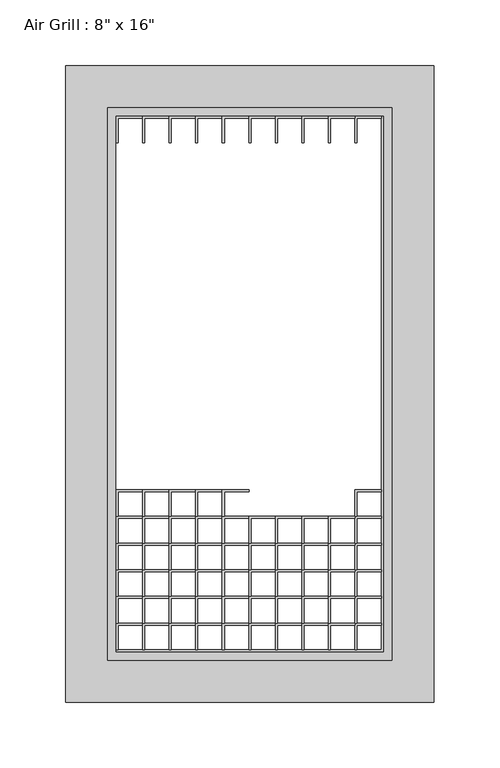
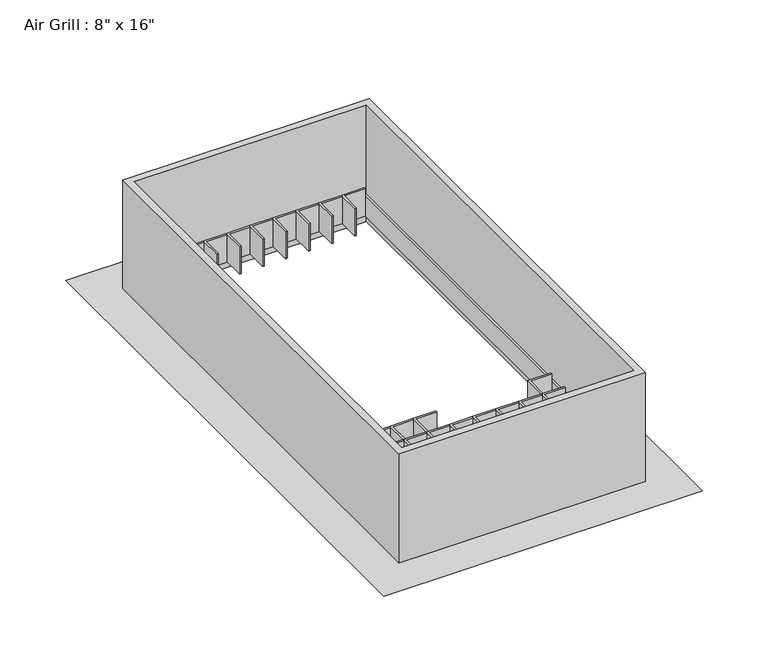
"""IFC4 building model written with IfcOpenShell, lengths in millimetres: proxy geometry."""

from ifc_helpers import new_model, si_unit, frame, origin, place, context, project, spatial, polyline, outline, extrude, faceted_brep, source, transform, mapped, element, save


def proxy_c49d08ba(model_context):
    return source(origin(), model_context, "Body", "SolidModel", [
        extrude(outline(polyline([(-20.955, -80.16875), (-0.79375, -80.16875), (-0.79375, -81.75625), (-19.3675, -81.75625), (-19.3675, -100.409375), (-20.955, -100.409375), (-20.955, -80.16875)])), frame((0.0, 0.0, 2438.4), z_axis=(0.0, 0.0, 1.0), x_axis=(1.0, 0.0, 0.0)), (0.0, 0.0, 1.0), 25.4),
        extrude(outline(polyline([(-41.11625, -80.16875), (-20.955, -80.16875), (-20.955, -81.75625), (-39.52875, -81.75625), (-39.52875, -100.409375), (-41.11625, -100.409375), (-41.11625, -80.16875)])), frame((0.0, 0.0, 2438.4), z_axis=(0.0, 0.0, 1.0), x_axis=(1.0, 0.0, 0.0)), (0.0, 0.0, 1.0), 25.4),
        extrude(outline(polyline([(-61.2775, -80.16875), (-41.11625, -80.16875), (-41.11625, -81.75625), (-59.69, -81.75625), (-59.69, -100.409375), (-61.2775, -100.409375), (-61.2775, -80.16875)])), frame((0.0, 0.0, 2438.4), z_axis=(0.0, 0.0, 1.0), x_axis=(1.0, 0.0, 0.0)), (0.0, 0.0, 1.0), 25.4),
        extrude(outline(polyline([(-81.43875, -80.16875), (-61.2775, -80.16875), (-61.2775, -81.75625), (-79.85125, -81.75625), (-79.85125, -100.409375), (-81.43875, -100.409375), (-81.43875, -80.16875)])), frame((0.0, 0.0, 2438.4), z_axis=(0.0, 0.0, 1.0), x_axis=(1.0, 0.0, 0.0)), (0.0, 0.0, 1.0), 25.4),
        extrude(outline(polyline([(79.85125, -80.16875), (100.0125, -80.16875), (100.0125, -81.75625), (81.43875, -81.75625), (81.43875, -100.409375), (79.85125, -100.409375), (79.85125, -80.16875)])), frame((0.0, 0.0, 2438.4), z_axis=(0.0, 0.0, 1.0), x_axis=(1.0, 0.0, 0.0)), (0.0, 0.0, 1.0), 25.4),
        extrude(outline(polyline([(-101.6, -80.16875), (-81.43875, -80.16875), (-81.43875, -81.75625), (-100.0125, -81.75625), (-100.0125, -100.409375), (-101.6, -100.409375), (-101.6, -80.16875)])), frame((0.0, 0.0, 2438.4), z_axis=(0.0, 0.0, 1.0), x_axis=(1.0, 0.0, 0.0)), (0.0, 0.0, 1.0), 25.4),
        extrude(outline(polyline([(59.69, -100.409375), (79.85125, -100.409375), (79.85125, -101.996875), (61.2775, -101.996875), (61.2775, -120.65), (59.69, -120.65), (59.69, -100.409375)])), frame((0.0, 0.0, 2438.4), z_axis=(0.0, 0.0, 1.0), x_axis=(1.0, 0.0, 0.0)), (0.0, 0.0, 1.0), 25.4),
        extrude(outline(polyline([(39.52875, -100.409375), (59.69, -100.409375), (59.69, -101.996875), (41.11625, -101.996875), (41.11625, -120.65), (39.52875, -120.65), (39.52875, -100.409375)])), frame((0.0, 0.0, 2438.4), z_axis=(0.0, 0.0, 1.0), x_axis=(1.0, 0.0, 0.0)), (0.0, 0.0, 1.0), 25.4),
        extrude(outline(polyline([(19.3675, -100.409375), (39.52875, -100.409375), (39.52875, -101.996875), (20.955, -101.996875), (20.955, -120.65), (19.3675, -120.65), (19.3675, -100.409375)])), frame((0.0, 0.0, 2438.4), z_axis=(0.0, 0.0, 1.0), x_axis=(1.0, 0.0, 0.0)), (0.0, 0.0, 1.0), 25.4),
        extrude(outline(polyline([(-0.79375, -100.409375), (19.3675, -100.409375), (19.3675, -101.996875), (0.79375, -101.996875), (0.79375, -120.65), (-0.79375, -120.65), (-0.79375, -100.409375)])), frame((0.0, 0.0, 2438.4), z_axis=(0.0, 0.0, 1.0), x_axis=(1.0, 0.0, 0.0)), (0.0, 0.0, 1.0), 25.4),
        extrude(outline(polyline([(-20.955, -100.409375), (-0.79375, -100.409375), (-0.79375, -101.996875), (-19.3675, -101.996875), (-19.3675, -120.65), (-20.955, -120.65), (-20.955, -100.409375)])), frame((0.0, 0.0, 2438.4), z_axis=(0.0, 0.0, 1.0), x_axis=(1.0, 0.0, 0.0)), (0.0, 0.0, 1.0), 25.4),
        extrude(outline(polyline([(-41.11625, -100.409375), (-20.955, -100.409375), (-20.955, -101.996875), (-39.52875, -101.996875), (-39.52875, -120.65), (-41.11625, -120.65), (-41.11625, -100.409375)])), frame((0.0, 0.0, 2438.4), z_axis=(0.0, 0.0, 1.0), x_axis=(1.0, 0.0, 0.0)), (0.0, 0.0, 1.0), 25.4),
        extrude(outline(polyline([(-61.2775, -100.409375), (-41.11625, -100.409375), (-41.11625, -101.996875), (-59.69, -101.996875), (-59.69, -120.65), (-61.2775, -120.65), (-61.2775, -100.409375)])), frame((0.0, 0.0, 2438.4), z_axis=(0.0, 0.0, 1.0), x_axis=(1.0, 0.0, 0.0)), (0.0, 0.0, 1.0), 25.4),
        extrude(outline(polyline([(-81.43875, -100.409375), (-61.2775, -100.409375), (-61.2775, -101.996875), (-79.85125, -101.996875), (-79.85125, -120.65), (-81.43875, -120.65), (-81.43875, -100.409375)])), frame((0.0, 0.0, 2438.4), z_axis=(0.0, 0.0, 1.0), x_axis=(1.0, 0.0, 0.0)), (0.0, 0.0, 1.0), 25.4),
        extrude(outline(polyline([(79.85125, -100.409375), (100.0125, -100.409375), (100.0125, -101.996875), (81.43875, -101.996875), (81.43875, -120.65), (79.85125, -120.65), (79.85125, -100.409375)])), frame((0.0, 0.0, 2438.4), z_axis=(0.0, 0.0, 1.0), x_axis=(1.0, 0.0, 0.0)), (0.0, 0.0, 1.0), 25.4),
        extrude(outline(polyline([(-101.6, -100.409375), (-81.43875, -100.409375), (-81.43875, -101.996875), (-100.0125, -101.996875), (-100.0125, -120.65), (-101.6, -120.65), (-101.6, -100.409375)])), frame((0.0, 0.0, 2438.4), z_axis=(0.0, 0.0, 1.0), x_axis=(1.0, 0.0, 0.0)), (0.0, 0.0, 1.0), 25.4),
        extrude(outline(polyline([(59.69, -120.65), (79.85125, -120.65), (79.85125, -122.2375), (61.2775, -122.2375), (61.2775, -140.890625), (59.69, -140.890625), (59.69, -120.65)])), frame((0.0, 0.0, 2438.4), z_axis=(0.0, 0.0, 1.0), x_axis=(1.0, 0.0, 0.0)), (0.0, 0.0, 1.0), 25.4),
        extrude(outline(polyline([(39.52875, -120.65), (59.69, -120.65), (59.69, -122.2375), (41.11625, -122.2375), (41.11625, -140.890625), (39.52875, -140.890625), (39.52875, -120.65)])), frame((0.0, 0.0, 2438.4), z_axis=(0.0, 0.0, 1.0), x_axis=(1.0, 0.0, 0.0)), (0.0, 0.0, 1.0), 25.4),
        extrude(outline(polyline([(19.3675, -120.65), (39.52875, -120.65), (39.52875, -122.2375), (20.955, -122.2375), (20.955, -140.890625), (19.3675, -140.890625), (19.3675, -120.65)])), frame((0.0, 0.0, 2438.4), z_axis=(0.0, 0.0, 1.0), x_axis=(1.0, 0.0, 0.0)), (0.0, 0.0, 1.0), 25.4),
        extrude(outline(polyline([(-0.79375, -120.65), (19.3675, -120.65), (19.3675, -122.2375), (0.79375, -122.2375), (0.79375, -140.890625), (-0.79375, -140.890625), (-0.79375, -120.65)])), frame((0.0, 0.0, 2438.4), z_axis=(0.0, 0.0, 1.0), x_axis=(1.0, 0.0, 0.0)), (0.0, 0.0, 1.0), 25.4),
        extrude(outline(polyline([(-20.955, -120.65), (-0.79375, -120.65), (-0.79375, -122.2375), (-19.3675, -122.2375), (-19.3675, -140.890625), (-20.955, -140.890625), (-20.955, -120.65)])), frame((0.0, 0.0, 2438.4), z_axis=(0.0, 0.0, 1.0), x_axis=(1.0, 0.0, 0.0)), (0.0, 0.0, 1.0), 25.4),
        extrude(outline(polyline([(-41.11625, -120.65), (-20.955, -120.65), (-20.955, -122.2375), (-39.52875, -122.2375), (-39.52875, -140.890625), (-41.11625, -140.890625), (-41.11625, -120.65)])), frame((0.0, 0.0, 2438.4), z_axis=(0.0, 0.0, 1.0), x_axis=(1.0, 0.0, 0.0)), (0.0, 0.0, 1.0), 25.4),
        extrude(outline(polyline([(-61.2775, -120.65), (-41.11625, -120.65), (-41.11625, -122.2375), (-59.69, -122.2375), (-59.69, -140.890625), (-61.2775, -140.890625), (-61.2775, -120.65)])), frame((0.0, 0.0, 2438.4), z_axis=(0.0, 0.0, 1.0), x_axis=(1.0, 0.0, 0.0)), (0.0, 0.0, 1.0), 25.4),
        extrude(outline(polyline([(-81.43875, -120.65), (-61.2775, -120.65), (-61.2775, -122.2375), (-79.85125, -122.2375), (-79.85125, -140.890625), (-81.43875, -140.890625), (-81.43875, -120.65)])), frame((0.0, 0.0, 2438.4), z_axis=(0.0, 0.0, 1.0), x_axis=(1.0, 0.0, 0.0)), (0.0, 0.0, 1.0), 25.4),
        extrude(outline(polyline([(79.85125, -120.65), (100.0125, -120.65), (100.0125, -122.2375), (81.43875, -122.2375), (81.43875, -140.890625), (79.85125, -140.890625), (79.85125, -120.65)])), frame((0.0, 0.0, 2438.4), z_axis=(0.0, 0.0, 1.0), x_axis=(1.0, 0.0, 0.0)), (0.0, 0.0, 1.0), 25.4),
        extrude(outline(polyline([(-101.6, -120.65), (-81.43875, -120.65), (-81.43875, -122.2375), (-100.0125, -122.2375), (-100.0125, -140.890625), (-101.6, -140.890625), (-101.6, -120.65)])), frame((0.0, 0.0, 2438.4), z_axis=(0.0, 0.0, 1.0), x_axis=(1.0, 0.0, 0.0)), (0.0, 0.0, 1.0), 25.4),
        extrude(outline(polyline([(59.69, -140.890625), (79.85125, -140.890625), (79.85125, -142.478125), (61.2775, -142.478125), (61.2775, -161.13125), (59.69, -161.13125), (59.69, -140.890625)])), frame((0.0, 0.0, 2438.4), z_axis=(0.0, 0.0, 1.0), x_axis=(1.0, 0.0, 0.0)), (0.0, 0.0, 1.0), 25.4),
        extrude(outline(polyline([(39.52875, -140.890625), (59.69, -140.890625), (59.69, -142.478125), (41.11625, -142.478125), (41.11625, -161.13125), (39.52875, -161.13125), (39.52875, -140.890625)])), frame((0.0, 0.0, 2438.4), z_axis=(0.0, 0.0, 1.0), x_axis=(1.0, 0.0, 0.0)), (0.0, 0.0, 1.0), 25.4),
        extrude(outline(polyline([(19.3675, -140.890625), (39.52875, -140.890625), (39.52875, -142.478125), (20.955, -142.478125), (20.955, -161.13125), (19.3675, -161.13125), (19.3675, -140.890625)])), frame((0.0, 0.0, 2438.4), z_axis=(0.0, 0.0, 1.0), x_axis=(1.0, 0.0, 0.0)), (0.0, 0.0, 1.0), 25.4),
        extrude(outline(polyline([(-0.79375, -140.890625), (19.3675, -140.890625), (19.3675, -142.478125), (0.79375, -142.478125), (0.79375, -161.13125), (-0.79375, -161.13125), (-0.79375, -140.890625)])), frame((0.0, 0.0, 2438.4), z_axis=(0.0, 0.0, 1.0), x_axis=(1.0, 0.0, 0.0)), (0.0, 0.0, 1.0), 25.4),
        extrude(outline(polyline([(-20.955, -140.890625), (-0.79375, -140.890625), (-0.79375, -142.478125), (-19.3675, -142.478125), (-19.3675, -161.13125), (-20.955, -161.13125), (-20.955, -140.890625)])), frame((0.0, 0.0, 2438.4), z_axis=(0.0, 0.0, 1.0), x_axis=(1.0, 0.0, 0.0)), (0.0, 0.0, 1.0), 25.4),
        extrude(outline(polyline([(-41.11625, -140.890625), (-20.955, -140.890625), (-20.955, -142.478125), (-39.52875, -142.478125), (-39.52875, -161.13125), (-41.11625, -161.13125), (-41.11625, -140.890625)])), frame((0.0, 0.0, 2438.4), z_axis=(0.0, 0.0, 1.0), x_axis=(1.0, 0.0, 0.0)), (0.0, 0.0, 1.0), 25.4),
        extrude(outline(polyline([(-61.2775, -140.890625), (-41.11625, -140.890625), (-41.11625, -142.478125), (-59.69, -142.478125), (-59.69, -161.13125), (-61.2775, -161.13125), (-61.2775, -140.890625)])), frame((0.0, 0.0, 2438.4), z_axis=(0.0, 0.0, 1.0), x_axis=(1.0, 0.0, 0.0)), (0.0, 0.0, 1.0), 25.4),
        extrude(outline(polyline([(-81.43875, -140.890625), (-61.2775, -140.890625), (-61.2775, -142.478125), (-79.85125, -142.478125), (-79.85125, -161.13125), (-81.43875, -161.13125), (-81.43875, -140.890625)])), frame((0.0, 0.0, 2438.4), z_axis=(0.0, 0.0, 1.0), x_axis=(1.0, 0.0, 0.0)), (0.0, 0.0, 1.0), 25.4),
        extrude(outline(polyline([(79.85125, -140.890625), (100.0125, -140.890625), (100.0125, -142.478125), (81.43875, -142.478125), (81.43875, -161.13125), (79.85125, -161.13125), (79.85125, -140.890625)])), frame((0.0, 0.0, 2438.4), z_axis=(0.0, 0.0, 1.0), x_axis=(1.0, 0.0, 0.0)), (0.0, 0.0, 1.0), 25.4),
        extrude(outline(polyline([(-101.6, -140.890625), (-81.43875, -140.890625), (-81.43875, -142.478125), (-100.0125, -142.478125), (-100.0125, -161.13125), (-101.6, -161.13125), (-101.6, -140.890625)])), frame((0.0, 0.0, 2438.4), z_axis=(0.0, 0.0, 1.0), x_axis=(1.0, 0.0, 0.0)), (0.0, 0.0, 1.0), 25.4),
        extrude(outline(polyline([(59.69, -161.13125), (79.85125, -161.13125), (79.85125, -162.71875), (61.2775, -162.71875), (61.2775, -181.371875), (59.69, -181.371875), (59.69, -161.13125)])), frame((0.0, 0.0, 2438.4), z_axis=(0.0, 0.0, 1.0), x_axis=(1.0, 0.0, 0.0)), (0.0, 0.0, 1.0), 25.4),
        extrude(outline(polyline([(39.52875, -161.13125), (59.69, -161.13125), (59.69, -162.71875), (41.11625, -162.71875), (41.11625, -181.371875), (39.52875, -181.371875), (39.52875, -161.13125)])), frame((0.0, 0.0, 2438.4), z_axis=(0.0, 0.0, 1.0), x_axis=(1.0, 0.0, 0.0)), (0.0, 0.0, 1.0), 25.4),
        extrude(outline(polyline([(19.3675, -161.13125), (39.52875, -161.13125), (39.52875, -162.71875), (20.955, -162.71875), (20.955, -181.371875), (19.3675, -181.371875), (19.3675, -161.13125)])), frame((0.0, 0.0, 2438.4), z_axis=(0.0, 0.0, 1.0), x_axis=(1.0, 0.0, 0.0)), (0.0, 0.0, 1.0), 25.4),
        extrude(outline(polyline([(-0.79375, -161.13125), (19.3675, -161.13125), (19.3675, -162.71875), (0.79375, -162.71875), (0.79375, -181.371875), (-0.79375, -181.371875), (-0.79375, -161.13125)])), frame((0.0, 0.0, 2438.4), z_axis=(0.0, 0.0, 1.0), x_axis=(1.0, 0.0, 0.0)), (0.0, 0.0, 1.0), 25.4),
        extrude(outline(polyline([(-20.955, -161.13125), (-0.79375, -161.13125), (-0.79375, -162.71875), (-19.3675, -162.71875), (-19.3675, -181.371875), (-20.955, -181.371875), (-20.955, -161.13125)])), frame((0.0, 0.0, 2438.4), z_axis=(0.0, 0.0, 1.0), x_axis=(1.0, 0.0, 0.0)), (0.0, 0.0, 1.0), 25.4),
        extrude(outline(polyline([(-41.11625, -161.13125), (-20.955, -161.13125), (-20.955, -162.71875), (-39.52875, -162.71875), (-39.52875, -181.371875), (-41.11625, -181.371875), (-41.11625, -161.13125)])), frame((0.0, 0.0, 2438.4), z_axis=(0.0, 0.0, 1.0), x_axis=(1.0, 0.0, 0.0)), (0.0, 0.0, 1.0), 25.4),
        extrude(outline(polyline([(-61.2775, -161.13125), (-41.11625, -161.13125), (-41.11625, -162.71875), (-59.69, -162.71875), (-59.69, -181.371875), (-61.2775, -181.371875), (-61.2775, -161.13125)])), frame((0.0, 0.0, 2438.4), z_axis=(0.0, 0.0, 1.0), x_axis=(1.0, 0.0, 0.0)), (0.0, 0.0, 1.0), 25.4),
        extrude(outline(polyline([(-81.43875, -161.13125), (-61.2775, -161.13125), (-61.2775, -162.71875), (-79.85125, -162.71875), (-79.85125, -181.371875), (-81.43875, -181.371875), (-81.43875, -161.13125)])), frame((0.0, 0.0, 2438.4), z_axis=(0.0, 0.0, 1.0), x_axis=(1.0, 0.0, 0.0)), (0.0, 0.0, 1.0), 25.4),
        extrude(outline(polyline([(79.85125, -161.13125), (100.0125, -161.13125), (100.0125, -162.71875), (81.43875, -162.71875), (81.43875, -181.371875), (79.85125, -181.371875), (79.85125, -161.13125)])), frame((0.0, 0.0, 2438.4), z_axis=(0.0, 0.0, 1.0), x_axis=(1.0, 0.0, 0.0)), (0.0, 0.0, 1.0), 25.4),
        extrude(outline(polyline([(-101.6, -161.13125), (-81.43875, -161.13125), (-81.43875, -162.71875), (-100.0125, -162.71875), (-100.0125, -181.371875), (-101.6, -181.371875), (-101.6, -161.13125)])), frame((0.0, 0.0, 2438.4), z_axis=(0.0, 0.0, 1.0), x_axis=(1.0, 0.0, 0.0)), (0.0, 0.0, 1.0), 25.4),
        extrude(outline(polyline([(59.69, 203.2), (79.85125, 203.2), (79.85125, 201.6125), (61.2775, 201.6125), (61.2775, 182.959375), (59.69, 182.959375), (59.69, 203.2)])), frame((0.0, 0.0, 2438.4), z_axis=(0.0, 0.0, 1.0), x_axis=(1.0, 0.0, 0.0)), (0.0, 0.0, 1.0), 25.4),
        extrude(outline(polyline([(39.52875, 203.2), (59.69, 203.2), (59.69, 201.6125), (41.11625, 201.6125), (41.11625, 182.959375), (39.52875, 182.959375), (39.52875, 203.2)])), frame((0.0, 0.0, 2438.4), z_axis=(0.0, 0.0, 1.0), x_axis=(1.0, 0.0, 0.0)), (0.0, 0.0, 1.0), 25.4),
        extrude(outline(polyline([(19.3675, 203.2), (39.52875, 203.2), (39.52875, 201.6125), (20.955, 201.6125), (20.955, 182.959375), (19.3675, 182.959375), (19.3675, 203.2)])), frame((0.0, 0.0, 2438.4), z_axis=(0.0, 0.0, 1.0), x_axis=(1.0, 0.0, 0.0)), (0.0, 0.0, 1.0), 25.4),
        extrude(outline(polyline([(-0.79375, 203.2), (19.3675, 203.2), (19.3675, 201.6125), (0.79375, 201.6125), (0.79375, 182.959375), (-0.79375, 182.959375), (-0.79375, 203.2)])), frame((0.0, 0.0, 2438.4), z_axis=(0.0, 0.0, 1.0), x_axis=(1.0, 0.0, 0.0)), (0.0, 0.0, 1.0), 25.4),
        extrude(outline(polyline([(-20.955, 203.2), (-0.79375, 203.2), (-0.79375, 201.6125), (-19.3675, 201.6125), (-19.3675, 182.959375), (-20.955, 182.959375), (-20.955, 203.2)])), frame((0.0, 0.0, 2438.4), z_axis=(0.0, 0.0, 1.0), x_axis=(1.0, 0.0, 0.0)), (0.0, 0.0, 1.0), 25.4),
        extrude(outline(polyline([(-41.11625, 203.2), (-20.955, 203.2), (-20.955, 201.6125), (-39.52875, 201.6125), (-39.52875, 182.959375), (-41.11625, 182.959375), (-41.11625, 203.2)])), frame((0.0, 0.0, 2438.4), z_axis=(0.0, 0.0, 1.0), x_axis=(1.0, 0.0, 0.0)), (0.0, 0.0, 1.0), 25.4),
        extrude(outline(polyline([(-61.2775, 203.2), (-41.11625, 203.2), (-41.11625, 201.6125), (-59.69, 201.6125), (-59.69, 182.959375), (-61.2775, 182.959375), (-61.2775, 203.2)])), frame((0.0, 0.0, 2438.4), z_axis=(0.0, 0.0, 1.0), x_axis=(1.0, 0.0, 0.0)), (0.0, 0.0, 1.0), 25.4),
        extrude(outline(polyline([(-81.43875, 203.2), (-61.2775, 203.2), (-61.2775, 201.6125), (-79.85125, 201.6125), (-79.85125, 182.959375), (-81.43875, 182.959375), (-81.43875, 203.2)])), frame((0.0, 0.0, 2438.4), z_axis=(0.0, 0.0, 1.0), x_axis=(1.0, 0.0, 0.0)), (0.0, 0.0, 1.0), 25.4),
        extrude(outline(polyline([(79.85125, 203.2), (100.0125, 203.2), (100.0125, 201.6125), (81.43875, 201.6125), (81.43875, 182.959375), (79.85125, 182.959375), (79.85125, 203.2)])), frame((0.0, 0.0, 2438.4), z_axis=(0.0, 0.0, 1.0), x_axis=(1.0, 0.0, 0.0)), (0.0, 0.0, 1.0), 25.4),
        extrude(outline(polyline([(-101.6, 203.2), (-81.43875, 203.2), (-81.43875, 201.6125), (-100.0125, 201.6125), (-100.0125, 182.959375), (-101.6, 182.959375), (-101.6, 203.2)])), frame((0.0, 0.0, 2438.4), z_axis=(0.0, 0.0, 1.0), x_axis=(1.0, 0.0, 0.0)), (0.0, 0.0, 1.0), 25.4),
        extrude(outline(polyline([(59.69, -181.371875), (79.85125, -181.371875), (79.85125, -182.959375), (61.2775, -182.959375), (61.2775, -201.6125), (59.69, -201.6125), (59.69, -181.371875)])), frame((0.0, 0.0, 2438.4), z_axis=(0.0, 0.0, 1.0), x_axis=(1.0, 0.0, 0.0)), (0.0, 0.0, 1.0), 25.4),
        extrude(outline(polyline([(39.52875, -181.371875), (59.69, -181.371875), (59.69, -182.959375), (41.11625, -182.959375), (41.11625, -201.6125), (39.52875, -201.6125), (39.52875, -181.371875)])), frame((0.0, 0.0, 2438.4), z_axis=(0.0, 0.0, 1.0), x_axis=(1.0, 0.0, 0.0)), (0.0, 0.0, 1.0), 25.4),
        extrude(outline(polyline([(19.3675, -181.371875), (39.52875, -181.371875), (39.52875, -182.959375), (20.955, -182.959375), (20.955, -201.6125), (19.3675, -201.6125), (19.3675, -181.371875)])), frame((0.0, 0.0, 2438.4), z_axis=(0.0, 0.0, 1.0), x_axis=(1.0, 0.0, 0.0)), (0.0, 0.0, 1.0), 25.4),
        extrude(outline(polyline([(-0.79375, -181.371875), (19.3675, -181.371875), (19.3675, -182.959375), (0.79375, -182.959375), (0.79375, -201.6125), (-0.79375, -201.6125), (-0.79375, -181.371875)])), frame((0.0, 0.0, 2438.4), z_axis=(0.0, 0.0, 1.0), x_axis=(1.0, 0.0, 0.0)), (0.0, 0.0, 1.0), 25.4),
        extrude(outline(polyline([(-20.955, -181.371875), (-0.79375, -181.371875), (-0.79375, -182.959375), (-19.3675, -182.959375), (-19.3675, -201.6125), (-20.955, -201.6125), (-20.955, -181.371875)])), frame((0.0, 0.0, 2438.4), z_axis=(0.0, 0.0, 1.0), x_axis=(1.0, 0.0, 0.0)), (0.0, 0.0, 1.0), 25.4),
        extrude(outline(polyline([(-41.11625, -181.371875), (-20.955, -181.371875), (-20.955, -182.959375), (-39.52875, -182.959375), (-39.52875, -201.6125), (-41.11625, -201.6125), (-41.11625, -181.371875)])), frame((0.0, 0.0, 2438.4), z_axis=(0.0, 0.0, 1.0), x_axis=(1.0, 0.0, 0.0)), (0.0, 0.0, 1.0), 25.4),
        extrude(outline(polyline([(-61.2775, -181.371875), (-41.11625, -181.371875), (-41.11625, -182.959375), (-59.69, -182.959375), (-59.69, -201.6125), (-61.2775, -201.6125), (-61.2775, -181.371875)])), frame((0.0, 0.0, 2438.4), z_axis=(0.0, 0.0, 1.0), x_axis=(1.0, 0.0, 0.0)), (0.0, 0.0, 1.0), 25.4),
        extrude(outline(polyline([(-81.43875, -181.371875), (-61.2775, -181.371875), (-61.2775, -182.959375), (-79.85125, -182.959375), (-79.85125, -201.6125), (-81.43875, -201.6125), (-81.43875, -181.371875)])), frame((0.0, 0.0, 2438.4), z_axis=(0.0, 0.0, 1.0), x_axis=(1.0, 0.0, 0.0)), (0.0, 0.0, 1.0), 25.4),
        extrude(outline(polyline([(79.85125, -181.371875), (100.0125, -181.371875), (100.0125, -182.959375), (81.43875, -182.959375), (81.43875, -201.6125), (79.85125, -201.6125), (79.85125, -181.371875)])), frame((0.0, 0.0, 2438.4), z_axis=(0.0, 0.0, 1.0), x_axis=(1.0, 0.0, 0.0)), (0.0, 0.0, 1.0), 25.4),
        extrude(outline(polyline([(-101.6, -181.371875), (-81.43875, -181.371875), (-81.43875, -182.959375), (-100.0125, -182.959375), (-100.0125, -201.6125), (-101.6, -201.6125), (-101.6, -181.371875)])), frame((0.0, 0.0, 2438.4), z_axis=(0.0, 0.0, 1.0), x_axis=(1.0, 0.0, 0.0)), (0.0, 0.0, 1.0), 25.4),
        extrude(outline(polyline([(-101.6, -203.2), (-101.6, -201.6125), (100.0125, -201.6125), (100.0125, 203.2), (101.6, 203.2), (101.6, -203.2), (-101.6, -203.2)])), frame((0.0, 0.0, 2438.4), z_axis=(0.0, 0.0, 1.0), x_axis=(1.0, 0.0, 0.0)), (0.0, 0.0, 1.0), 19.05),
        faceted_brep([(101.6, 203.2, 2438.4), (101.6, 203.2, 2432.05), (101.6, -203.2, 2432.05), (101.6, -203.2, 2438.4), (-101.6, -203.2, 2432.05), (-101.6, -203.2, 2438.4), (-101.6, 203.2, 2432.05), (-101.6, 203.2, 2438.4), (127.0, -228.6, 2432.05), (-127.0, -228.6, 2432.05), (-127.0, 228.6, 2432.05), (127.0, 228.6, 2432.05), (139.7, 241.3, 2438.4), (-139.7, 241.3, 2438.4), (-139.7, -241.3, 2438.4), (139.7, -241.3, 2438.4)], [[[0, 1, 2, 3]], [[3, 2, 4, 5]], [[5, 4, 6, 7]], [[8, 9, 10, 11], [1, 6, 4, 2]], [[12, 13, 14, 15], [3, 5, 7, 0]], [[7, 6, 1, 0]], [[11, 12, 15, 8]], [[8, 15, 14, 9]], [[9, 14, 13, 10]], [[10, 13, 12, 11]]]),
        extrude(outline(polyline([(107.95, 209.55), (107.95, -209.55), (-107.95, -209.55), (-107.95, 209.55), (107.95, 209.55)]), holes=[polyline([(101.6, 203.2), (-101.6, 203.2), (-101.6, -203.2), (101.6, -203.2), (101.6, 203.2)])]), frame((0.0, 0.0, 2438.4), z_axis=(0.0, 0.0, 1.0), x_axis=(1.0, 0.0, 0.0)), (0.0, 0.0, 1.0), 101.6),
    ])


if __name__ == "__main__":
    model = new_model("IFC4")
    model_context = context("Model", 3, world=origin())
    ifc_project = project(units=[si_unit("LENGTHUNIT", "METRE", prefix="MILLI")], contexts=[model_context])
    site = spatial("IfcSite", under=ifc_project)
    building = spatial("IfcBuilding", under=site)
    placement = place(None, origin())
    proxy_shape = proxy_c49d08ba(model_context)
    element("IfcBuildingElementProxy", 1, Name="Air Grill : 8\" x 16\"", ObjectType="Air Grill : 8\" x 16\"", at=placement, inside=building, context=model_context, shape_type="MappedRepresentation", body=[
        mapped(proxy_shape, transform((0.0, 0.0, 0.0), x_axis=(1.0, 0.0, 0.0), y_axis=(0.0, 1.0, 0.0), z_axis=(0.0, 0.0, 1.0))),
    ])
    save(model, "model.ifc")
